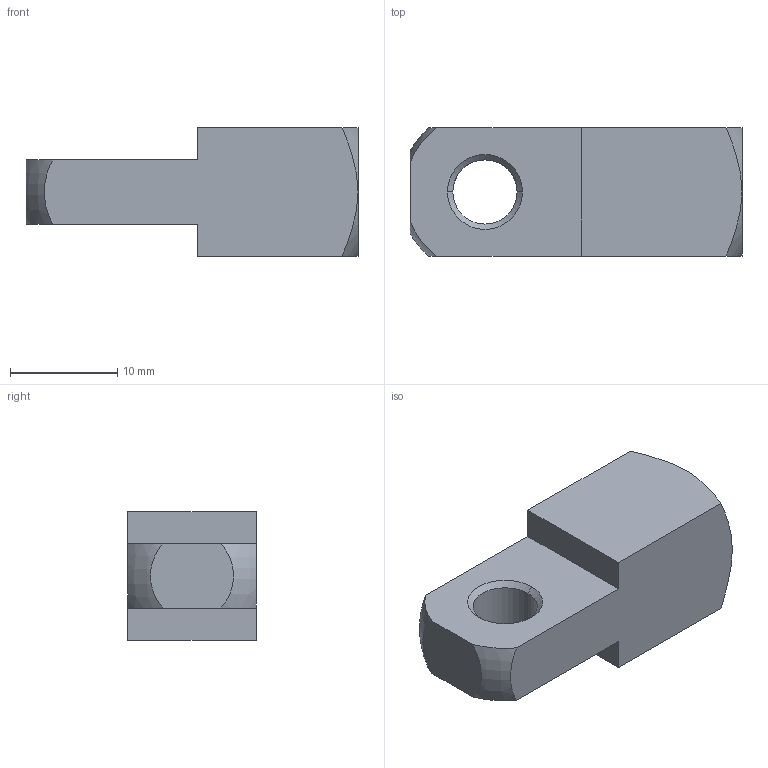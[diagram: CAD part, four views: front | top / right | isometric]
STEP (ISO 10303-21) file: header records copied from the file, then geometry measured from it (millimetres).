
FILE_DESCRIPTION (( 'STEP AP203' ), '1' );
FILE_NAME ('65653.W1006.step', '2014-01-22T12:16:21', ( 'User' ), ( '' ), 'SwSTEP 2.0', 'SolidWorks 2009', '' );
FILE_SCHEMA (( 'CONFIG_CONTROL_DESIGN' ));
Length unit declared in the file: millimetre
Products named in the file (1): 65653.W1006
Bounding box: 31 x 12 x 12 mm (x, y, z)
Volume: 2712.7 mm3; surface area: 1832.7 mm2
Topology: 1 solids, 1 shells, 31 faces, 74 edges, 45 vertices
Faces by surface type: cone 12, plane 11, cylinder 6, torus 2
Entity records: 1063 total; most frequent: CARTESIAN_POINT 273, DIRECTION 152, ORIENTED_EDGE 144, EDGE_CURVE 72, AXIS2_PLACEMENT_3D 60, VERTEX_POINT 45, EDGE_LOOP 35, LINE 32
